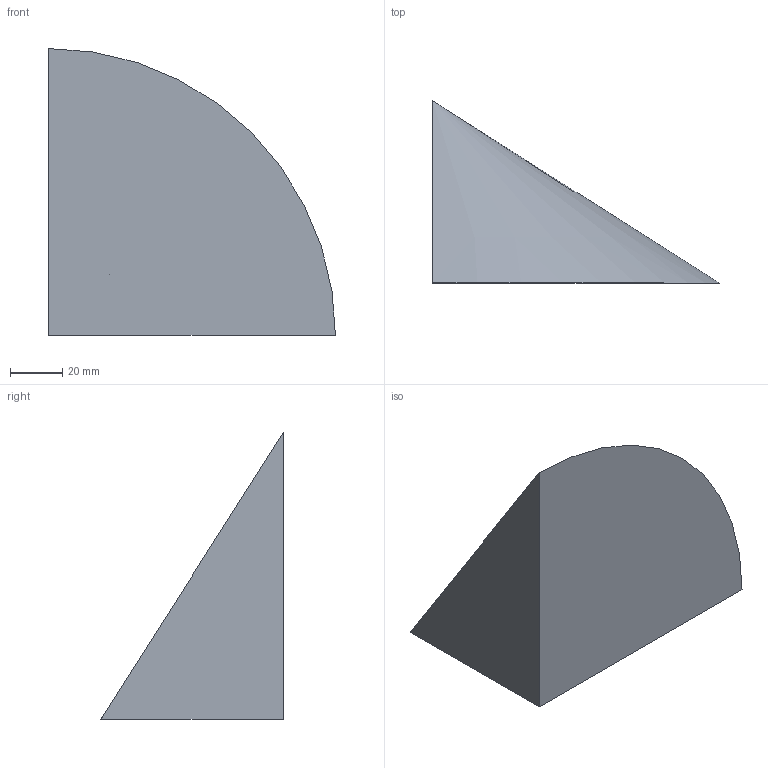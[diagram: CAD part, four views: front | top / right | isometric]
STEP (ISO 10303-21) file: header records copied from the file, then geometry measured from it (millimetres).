
FILE_DESCRIPTION(('CATIA V5 STEP Exchange'),'2;1');
FILE_NAME('C:\_Andres\UNIVERSIDAD\IQS\ASIGNATURAS\DAO\EXF\EXF-16172c\2inicio\Duch_Leira_Ej07_v10.stp','2017-03-05T21:18:12+00:00',('none'),('none'),'CATIA Version 5-6 Release 2014 SP1 HF18','CATIA V5 STEP AP203','none');
FILE_SCHEMA(('CONFIG_CONTROL_DESIGN'));
Length unit declared in the file: millimetre
Products named in the file (1): Duch_Leira_Ej07_v10
Bounding box: 110 x 70 x 110 mm (x, y, z)
Volume: 221744.1 mm3; surface area: 28467.7 mm2
Topology: 1 solids, 1 shells, 4 faces, 7 edges, 4 vertices
Faces by surface type: plane 3, cone 1
Entity records: 131 total; most frequent: CARTESIAN_POINT 15, DIRECTION 14, ORIENTED_EDGE 12, AXIS2_PLACEMENT_3D 6, EDGE_CURVE 6, VECTOR 5, LINE 5, ADVANCED_FACE 4
